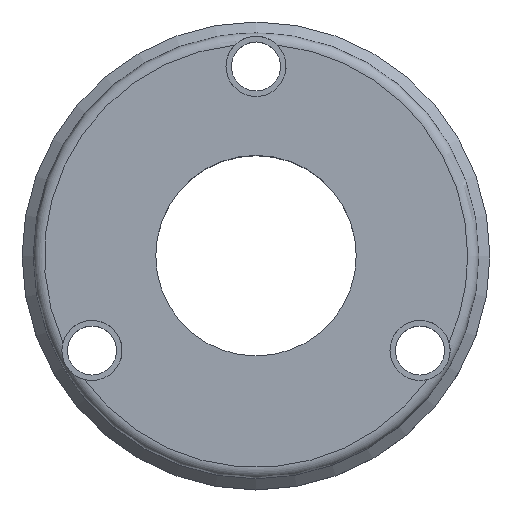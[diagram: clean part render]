
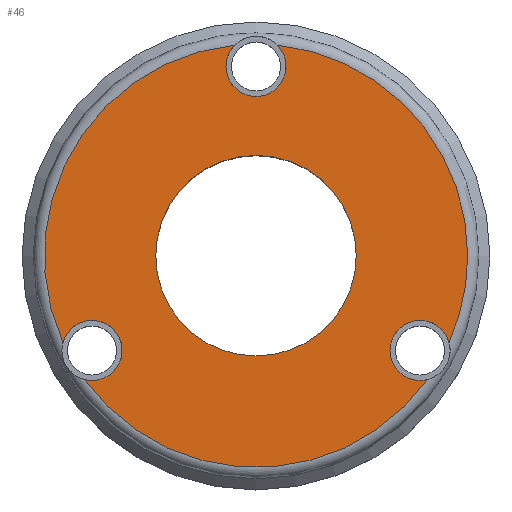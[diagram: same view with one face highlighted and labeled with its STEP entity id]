
A CAD part, top view. The second image highlights one B-rep face of the part: STEP entity #46.
In plain terms, the highlighted planar face has unit normal (0, 0, 1).
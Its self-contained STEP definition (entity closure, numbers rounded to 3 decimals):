
#40=PLANE('',#275);
#46=ADVANCED_FACE('',(#73,#74),#40,.T.);
#73=FACE_BOUND('',#110,.T.);
#74=FACE_BOUND('',#111,.T.);
#110=EDGE_LOOP('',(#147,#148,#149,#150,#151,#152));
#111=EDGE_LOOP('',(#153));
#147=ORIENTED_EDGE('',*,*,#219,.T.);
#148=ORIENTED_EDGE('',*,*,#220,.T.);
#149=ORIENTED_EDGE('',*,*,#221,.T.);
#150=ORIENTED_EDGE('',*,*,#222,.T.);
#151=ORIENTED_EDGE('',*,*,#223,.T.);
#152=ORIENTED_EDGE('',*,*,#224,.T.);
#153=ORIENTED_EDGE('',*,*,#225,.T.);
#197=VERTEX_POINT('',#391);
#198=VERTEX_POINT('',#392);
#199=VERTEX_POINT('',#394);
#200=VERTEX_POINT('',#396);
#201=VERTEX_POINT('',#398);
#202=VERTEX_POINT('',#400);
#203=VERTEX_POINT('',#403);
#219=EDGE_CURVE('',#197,#198,#244,.T.);
#220=EDGE_CURVE('',#198,#199,#245,.T.);
#221=EDGE_CURVE('',#199,#200,#246,.T.);
#222=EDGE_CURVE('',#200,#201,#247,.T.);
#223=EDGE_CURVE('',#201,#202,#248,.T.);
#224=EDGE_CURVE('',#202,#197,#249,.T.);
#225=EDGE_CURVE('',#203,#203,#250,.T.);
#244=CIRCLE('',#268,1.35);
#245=CIRCLE('',#269,9.5);
#246=CIRCLE('',#270,1.35);
#247=CIRCLE('',#271,9.5);
#248=CIRCLE('',#272,1.35);
#249=CIRCLE('',#273,9.5);
#250=CIRCLE('',#274,4.5);
#268=AXIS2_PLACEMENT_3D('',#390,#312,#313);
#269=AXIS2_PLACEMENT_3D('',#393,#314,#315);
#270=AXIS2_PLACEMENT_3D('',#395,#316,#317);
#271=AXIS2_PLACEMENT_3D('',#397,#318,#319);
#272=AXIS2_PLACEMENT_3D('',#399,#320,#321);
#273=AXIS2_PLACEMENT_3D('',#401,#322,#323);
#274=AXIS2_PLACEMENT_3D('',#402,#324,#325);
#275=AXIS2_PLACEMENT_3D('',#404,#326,#327);
#312=DIRECTION('',(0.,0.,-1.));
#313=DIRECTION('',(-1.,0.,0.));
#314=DIRECTION('',(0.,0.,1.));
#315=DIRECTION('',(1.,0.,0.));
#316=DIRECTION('',(0.,0.,-1.));
#317=DIRECTION('',(-1.,0.,0.));
#318=DIRECTION('',(0.,0.,1.));
#319=DIRECTION('',(1.,0.,0.));
#320=DIRECTION('',(0.,0.,-1.));
#321=DIRECTION('',(-1.,0.,0.));
#322=DIRECTION('',(0.,0.,1.));
#323=DIRECTION('',(1.,0.,0.));
#324=DIRECTION('',(0.,0.,-1.));
#325=DIRECTION('',(-1.,0.,0.));
#326=DIRECTION('',(0.,0.,1.));
#327=DIRECTION('',(1.,0.,0.));
#390=CARTESIAN_POINT('',(0.,8.5,8.6));
#391=CARTESIAN_POINT('',(0.958,9.452,8.6));
#392=CARTESIAN_POINT('',(-0.958,9.452,8.6));
#393=CARTESIAN_POINT('',(0.,0.,8.6));
#394=CARTESIAN_POINT('',(-8.664,-3.897,8.6));
#395=CARTESIAN_POINT('',(-7.361,-4.25,8.6));
#396=CARTESIAN_POINT('',(-7.707,-5.555,8.6));
#397=CARTESIAN_POINT('',(0.,0.,8.6));
#398=CARTESIAN_POINT('',(7.707,-5.555,8.6));
#399=CARTESIAN_POINT('',(7.361,-4.25,8.6));
#400=CARTESIAN_POINT('',(8.664,-3.897,8.6));
#401=CARTESIAN_POINT('',(0.,0.,8.6));
#402=CARTESIAN_POINT('',(0.,0.,8.6));
#403=CARTESIAN_POINT('',(-4.5,0.,8.6));
#404=CARTESIAN_POINT('',(0.,0.,8.6));
